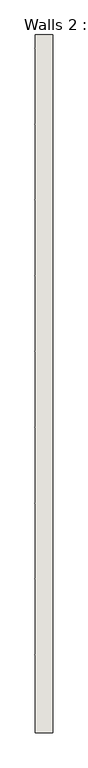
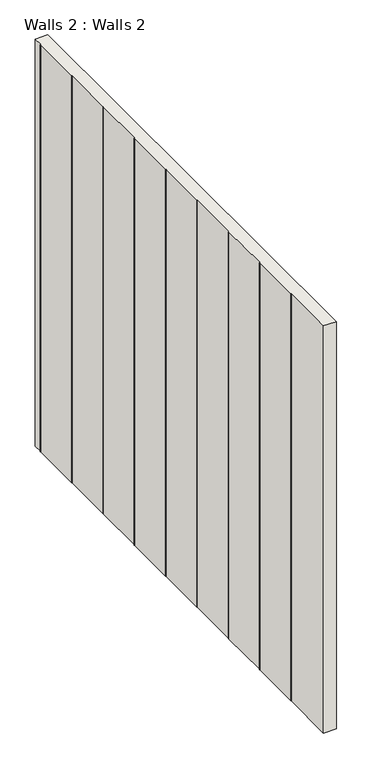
"""IFC4 building model written with IfcOpenShell, lengths in millimetres: wall geometry, Walls 2 : Walls 2."""

from ifc_helpers import new_model, si_unit, frame, origin, place, context, project, spatial, polyline, outline, extrude, source, transform, mapped, element, save


def walls_2_walls_2_f0e25747(model_context):
    return source(origin(), model_context, "Body", "SweptSolid", [
        extrude(outline(polyline([(6093.9536405, 450.3490616), (6006.9536405, 450.3490616), (6006.9536405, 836.1258219), (6005.0736405, 838.0058219), (6006.9536405, 839.8858219), (6006.9536405, 1211.1258219), (6005.0736405, 1213.0058219), (6006.9536405, 1214.8858219), (6006.9536405, 1586.1258219), (6005.0736405, 1588.0058219), (6006.9536405, 1589.8858219), (6006.9536405, 1961.1258219), (6005.0736405, 1963.0058219), (6006.9536405, 1964.8858219), (6006.9536405, 2336.1258219), (6005.0736405, 2338.0058219), (6006.9536405, 2339.8858219), (6006.9536405, 2711.1258219), (6005.0736405, 2713.0058219), (6006.9536405, 2714.8858219), (6006.9536405, 3086.1258219), (6005.0736405, 3088.0058219), (6006.9536405, 3089.8858219), (6006.9536405, 3461.1258219), (6005.0736405, 3463.0058219), (6006.9536405, 3464.8858219), (6006.9536405, 3836.1258219), (6005.0736405, 3838.0058219), (6006.9536405, 3839.8858219), (6006.9536405, 3903.8998207), (6093.9536405, 3903.8998207), (6093.9536405, 450.3490616)])), frame((0.0, 0.0, 340.0), z_axis=(0.0, 0.0, 1.0), x_axis=(1.0, 0.0, 0.0)), (0.0, 0.0, 1.0), 2971.0),
    ])


if __name__ == "__main__":
    model = new_model("IFC4")
    model_context = context("Model", 3, world=origin())
    ifc_project = project(units=[si_unit("LENGTHUNIT", "METRE", prefix="MILLI")], contexts=[model_context])
    site = spatial("IfcSite", under=ifc_project)
    building = spatial("IfcBuilding", under=site)
    placement = place(None, origin())
    walls_2_walls_2_shape = walls_2_walls_2_f0e25747(model_context)
    element("IfcWall", 1, ObjectType="Walls 2 : Walls 2", at=placement, inside=building, context=model_context, shape_type="MappedRepresentation", body=[
        mapped(walls_2_walls_2_shape, transform((0.0, 0.0, 0.0), x_axis=(1.0, 0.0, 0.0), y_axis=(0.0, 1.0, 0.0), z_axis=(0.0, 0.0, 1.0))),
    ])
    save(model, "model.ifc")
